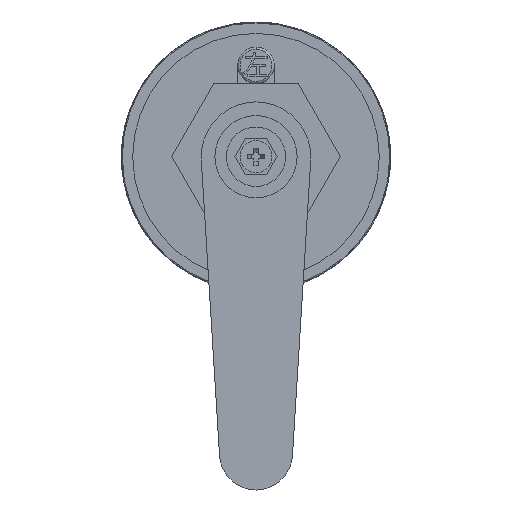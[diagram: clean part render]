
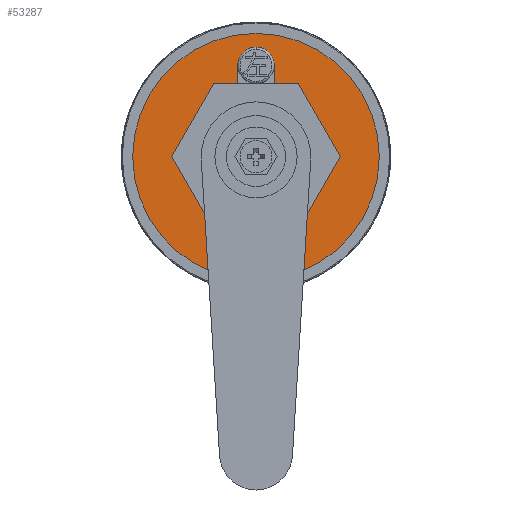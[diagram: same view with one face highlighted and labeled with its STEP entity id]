
A CAD part, front view. The second image highlights one B-rep face of the part: STEP entity #53287.
In plain terms, the highlighted planar face has unit normal (0, -1, 0).
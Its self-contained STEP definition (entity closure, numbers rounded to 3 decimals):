
#112 = DIRECTION ( 'NONE',  ( 0., 0., 1. ) ) ;
#286 = DIRECTION ( 'NONE',  ( 0., 0., -1. ) ) ;
#447 = CARTESIAN_POINT ( 'NONE',  ( 0., 0., 0. ) ) ;
#614 = ORIENTED_EDGE ( 'NONE', *, *, #71695, .T. ) ;
#613 = CARTESIAN_POINT ( 'NONE',  ( 0., 0., 0. ) ) ;
#704 = DIRECTION ( 'NONE',  ( 0., 1., 0. ) ) ;
#1451 = DIRECTION ( 'NONE',  ( 0., 0., 1. ) ) ;
#1849 = CARTESIAN_POINT ( 'NONE',  ( 0., 0., 0. ) ) ;
#2005 = CARTESIAN_POINT ( 'NONE',  ( 0., 0., -24. ) ) ;
#5019 = ORIENTED_EDGE ( 'NONE', *, *, #73351, .T. ) ;
#6524 = DIRECTION ( 'NONE',  ( 0., 0., 1. ) ) ;
#7648 = EDGE_LOOP ( 'NONE', ( #58600, #25423, #21502, #13256, #64327, #614, #63152, #10289, #70377, #16519, #5019, #55407, #68207 ) ) ;
#7758 = DIRECTION ( 'NONE',  ( 0., 0., 1. ) ) ;
#9570 = AXIS2_PLACEMENT_3D ( 'NONE', #12091, #53203, #18022 ) ;
#9773 = DIRECTION ( 'NONE',  ( 0., 1., 0. ) ) ;
#10289 = ORIENTED_EDGE ( 'NONE', *, *, #42924, .T. ) ;
#10655 = ORIENTED_EDGE ( 'NONE', *, *, #40000, .F. ) ;
#11586 = EDGE_CURVE ( 'NONE', #55432, #13669, #30545, .T. ) ;
#11714 = EDGE_CURVE ( 'NONE', #37373, #67683, #58147, .T. ) ;
#12091 = CARTESIAN_POINT ( 'NONE',  ( 0., 0., -20. ) ) ;
#12748 = CIRCLE ( 'NONE', #49443, 0.5 ) ;
#13256 = ORIENTED_EDGE ( 'NONE', *, *, #53904, .T. ) ;
#13669 = VERTEX_POINT ( 'NONE', #64895 ) ;
#14327 = VECTOR ( 'NONE', #14492, 1000. ) ;
#14492 = DIRECTION ( 'NONE',  ( 0., 0., -1. ) ) ;
#16519 = ORIENTED_EDGE ( 'NONE', *, *, #68897, .T. ) ;
#17025 = CARTESIAN_POINT ( 'NONE',  ( 4.327, 0., -11.727 ) ) ;
#18022 = DIRECTION ( 'NONE',  ( 0., 0., 1. ) ) ;
#18078 = EDGE_CURVE ( 'NONE', #52117, #29699, #55902, .T. ) ;
#18318 = CARTESIAN_POINT ( 'NONE',  ( 0., 0., 20. ) ) ;
#18436 = CIRCLE ( 'NONE', #52537, 4. ) ;
#20048 = DIRECTION ( 'NONE',  ( 0., 1., 0. ) ) ;
#20585 = VERTEX_POINT ( 'NONE', #2005 ) ;
#21336 = EDGE_CURVE ( 'NONE', #29945, #22392, #23559, .T. ) ;
#21502 = ORIENTED_EDGE ( 'NONE', *, *, #44178, .F. ) ;
#21524 = DIRECTION ( 'NONE',  ( 0., 0., -1. ) ) ;
#21693 = EDGE_CURVE ( 'NONE', #28159, #39147, #29988, .T. ) ;
#22392 = VERTEX_POINT ( 'NONE', #37667 ) ;
#23559 = CIRCLE ( 'NONE', #46968, 0.5 ) ;
#23600 = DIRECTION ( 'NONE',  ( 0., 1., 0. ) ) ;
#24106 = CARTESIAN_POINT ( 'NONE',  ( -4.5, 0., -12.196 ) ) ;
#24211 = DIRECTION ( 'NONE',  ( 0., 0., 1. ) ) ;
#24270 = VERTEX_POINT ( 'NONE', #69388 ) ;
#24622 = AXIS2_PLACEMENT_3D ( 'NONE', #24106, #65271, #30030 ) ;
#25423 = ORIENTED_EDGE ( 'NONE', *, *, #21336, .T. ) ;
#26591 = VERTEX_POINT ( 'NONE', #60390 ) ;
#26891 = CIRCLE ( 'NONE', #37553, 0.5 ) ;
#27372 = FACE_OUTER_BOUND ( 'NONE', #69680, .T. ) ;
#27617 = DIRECTION ( 'NONE',  ( 0., 0., -1. ) ) ;
#27684 = CARTESIAN_POINT ( 'NONE',  ( -4., 0., 0. ) ) ;
#28159 = VERTEX_POINT ( 'NONE', #57180 ) ;
#28280 = CIRCLE ( 'NONE', #29069, 4. ) ;
#29069 = AXIS2_PLACEMENT_3D ( 'NONE', #18318, #59451, #24211 ) ;
#29699 = VERTEX_POINT ( 'NONE', #17025 ) ;
#29945 = VERTEX_POINT ( 'NONE', #41392 ) ;
#29988 = LINE ( 'NONE', #55351, #14327 ) ;
#30030 = DIRECTION ( 'NONE',  ( 0., 0., 1. ) ) ;
#30505 = AXIS2_PLACEMENT_3D ( 'NONE', #447, #704, #41817 ) ;
#30545 = CIRCLE ( 'NONE', #65509, 27. ) ;
#30582 = EDGE_CURVE ( 'NONE', #67683, #29945, #38869, .T. ) ;
#33948 = DIRECTION ( 'NONE',  ( 0., -1., 0. ) ) ;
#34618 = VECTOR ( 'NONE', #27617, 1000. ) ;
#35316 = DIRECTION ( 'NONE',  ( 0., -1., 0. ) ) ;
#36495 = CARTESIAN_POINT ( 'NONE',  ( 0., 0., -27. ) ) ;
#36643 = DIRECTION ( 'NONE',  ( 0., -1., 0. ) ) ;
#37373 = VERTEX_POINT ( 'NONE', #57466 ) ;
#37553 = AXIS2_PLACEMENT_3D ( 'NONE', #68121, #33948, #75063 ) ;
#37667 = CARTESIAN_POINT ( 'NONE',  ( -4., 0., 12.196 ) ) ;
#38869 = CIRCLE ( 'NONE', #64090, 12.5 ) ;
#39147 = VERTEX_POINT ( 'NONE', #66114 ) ;
#40000 = EDGE_CURVE ( 'NONE', #13669, #55432, #63890, .T. ) ;
#41166 = FACE_BOUND ( 'NONE', #7648, .T. ) ;
#41392 = CARTESIAN_POINT ( 'NONE',  ( -4.327, 0., 11.727 ) ) ;
#41397 = CARTESIAN_POINT ( 'NONE',  ( 4., 0., 0. ) ) ;
#41722 = DIRECTION ( 'NONE',  ( 0., 1., 0. ) ) ;
#41817 = DIRECTION ( 'NONE',  ( 0., 0., 1. ) ) ;
#42924 = EDGE_CURVE ( 'NONE', #29699, #63651, #26891, .T. ) ;
#42966 = DIRECTION ( 'NONE',  ( 0., 1., 0. ) ) ;
#43801 = VECTOR ( 'NONE', #286, 1000. ) ;
#44178 = EDGE_CURVE ( 'NONE', #26591, #22392, #75599, .T. ) ;
#44972 = CARTESIAN_POINT ( 'NONE',  ( 0., 0., 0. ) ) ;
#45067 = CARTESIAN_POINT ( 'NONE',  ( -4., 0., 0. ) ) ;
#46968 = AXIS2_PLACEMENT_3D ( 'NONE', #70561, #35316, #112 ) ;
#47429 = CARTESIAN_POINT ( 'NONE',  ( -4., 0., -20. ) ) ;
#49443 = AXIS2_PLACEMENT_3D ( 'NONE', #71882, #36643, #1451 ) ;
#50212 = LINE ( 'NONE', #45067, #34618 ) ;
#50249 = CARTESIAN_POINT ( 'NONE',  ( 4.327, 0., 11.727 ) ) ;
#50876 = DIRECTION ( 'NONE',  ( 0., 0., 1. ) ) ;
#52117 = VERTEX_POINT ( 'NONE', #50249 ) ;
#52537 = AXIS2_PLACEMENT_3D ( 'NONE', #55246, #20048, #61185 ) ;
#53203 = DIRECTION ( 'NONE',  ( 0., 1., 0. ) ) ;
#53287 = ADVANCED_FACE ( 'NONE', ( #41166, #27372 ), #65261, .F. ) ;
#53904 = EDGE_CURVE ( 'NONE', #26591, #28159, #28280, .T. ) ;
#55237 = EDGE_CURVE ( 'NONE', #63651, #24270, #57637, .T. ) ;
#55246 = CARTESIAN_POINT ( 'NONE',  ( 0., 0., -20. ) ) ;
#55351 = CARTESIAN_POINT ( 'NONE',  ( 4., 0., 0. ) ) ;
#55407 = ORIENTED_EDGE ( 'NONE', *, *, #55507, .F. ) ;
#55432 = VERTEX_POINT ( 'NONE', #36495 ) ;
#55507 = EDGE_CURVE ( 'NONE', #37373, #62555, #50212, .T. ) ;
#55763 = AXIS2_PLACEMENT_3D ( 'NONE', #613, #41722, #6524 ) ;
#55902 = CIRCLE ( 'NONE', #55763, 12.5 ) ;
#57180 = CARTESIAN_POINT ( 'NONE',  ( 4., 0., 20. ) ) ;
#57466 = CARTESIAN_POINT ( 'NONE',  ( -4., 0., -12.196 ) ) ;
#57637 = LINE ( 'NONE', #41397, #43801 ) ;
#57906 = CARTESIAN_POINT ( 'NONE',  ( 4., 0., -12.196 ) ) ;
#58147 = CIRCLE ( 'NONE', #24622, 0.5 ) ;
#58345 = CARTESIAN_POINT ( 'NONE',  ( -4.327, 0., -11.727 ) ) ;
#58600 = ORIENTED_EDGE ( 'NONE', *, *, #30582, .T. ) ;
#58849 = CARTESIAN_POINT ( 'NONE',  ( 0., 0., 0. ) ) ;
#59451 = DIRECTION ( 'NONE',  ( 0., 1., 0. ) ) ;
#60390 = CARTESIAN_POINT ( 'NONE',  ( -4., 0., 20. ) ) ;
#61185 = DIRECTION ( 'NONE',  ( 0., 0., 1. ) ) ;
#62297 = CIRCLE ( 'NONE', #9570, 4. ) ;
#62555 = VERTEX_POINT ( 'NONE', #47429 ) ;
#63152 = ORIENTED_EDGE ( 'NONE', *, *, #18078, .T. ) ;
#63651 = VERTEX_POINT ( 'NONE', #57906 ) ;
#63890 = CIRCLE ( 'NONE', #72168, 27. ) ;
#64090 = AXIS2_PLACEMENT_3D ( 'NONE', #1849, #42966, #7758 ) ;
#64327 = ORIENTED_EDGE ( 'NONE', *, *, #21693, .T. ) ;
#64754 = DIRECTION ( 'NONE',  ( 0., 0., 1. ) ) ;
#64895 = CARTESIAN_POINT ( 'NONE',  ( 0., 0., 27. ) ) ;
#65261 = PLANE ( 'NONE',  #30505 ) ;
#65271 = DIRECTION ( 'NONE',  ( 0., -1., 0. ) ) ;
#65509 = AXIS2_PLACEMENT_3D ( 'NONE', #58849, #23600, #64754 ) ;
#66114 = CARTESIAN_POINT ( 'NONE',  ( 4., 0., 12.196 ) ) ;
#67683 = VERTEX_POINT ( 'NONE', #58345 ) ;
#68121 = CARTESIAN_POINT ( 'NONE',  ( 4.5, 0., -12.196 ) ) ;
#68207 = ORIENTED_EDGE ( 'NONE', *, *, #11714, .T. ) ;
#68897 = EDGE_CURVE ( 'NONE', #24270, #20585, #18436, .T. ) ;
#69388 = CARTESIAN_POINT ( 'NONE',  ( 4., 0., -20. ) ) ;
#69680 = EDGE_LOOP ( 'NONE', ( #75857, #10655 ) ) ;
#70377 = ORIENTED_EDGE ( 'NONE', *, *, #55237, .T. ) ;
#70561 = CARTESIAN_POINT ( 'NONE',  ( -4.5, 0., 12.196 ) ) ;
#71695 = EDGE_CURVE ( 'NONE', #39147, #52117, #12748, .T. ) ;
#71882 = CARTESIAN_POINT ( 'NONE',  ( 4.5, 0., 12.196 ) ) ;
#71914 = VECTOR ( 'NONE', #21524, 1000. ) ;
#72168 = AXIS2_PLACEMENT_3D ( 'NONE', #44972, #9773, #50876 ) ;
#73351 = EDGE_CURVE ( 'NONE', #20585, #62555, #62297, .T. ) ;
#75063 = DIRECTION ( 'NONE',  ( 0., 0., 1. ) ) ;
#75599 = LINE ( 'NONE', #27684, #71914 ) ;
#75857 = ORIENTED_EDGE ( 'NONE', *, *, #11586, .F. ) ;
